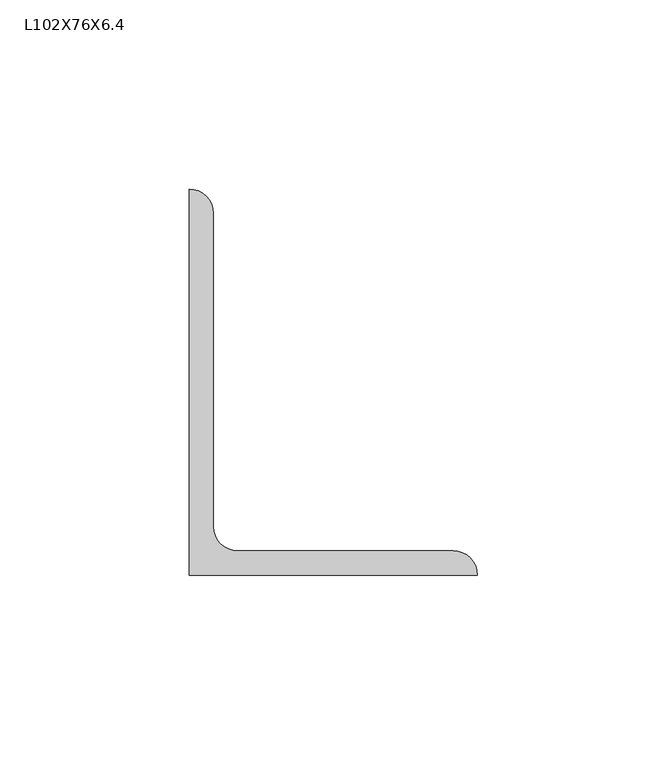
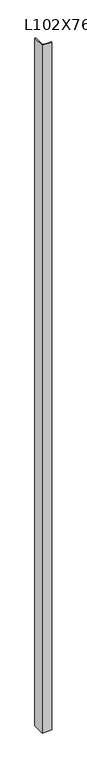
"""IFC4 building model written with IfcOpenShell, lengths in millimetres: column geometry, Уголок-Колонна : L102X76X6.4."""

from ifc_helpers import new_model, si_unit, point, frame_2d, origin, origin_with_axes, place, context, project, spatial, polyline, circle_curve, trimmed, segment, composite_curve, outline, extrude, source, transform, mapped, element, save


def l102x76x6_4_0af6abb1(model_context):
    return source(origin(), model_context, "Body", "SweptSolid", [
        extrude(outline(composite_curve([segment(polyline([(57.8, -31.0), (-18.4, -31.0), (-18.4, 71.0)]), True, "CONTINUOUS"), segment(trimmed(circle_curve(frame_2d((-18.4, 64.6)), 6.4), [point((-18.4, 71.0))], [point((-12.0, 64.6))], False, "CARTESIAN"), True, "CONTINUOUS"), segment(polyline([(-12.0, 64.6), (-12.0, -18.2)]), True, "CONTINUOUS"), segment(trimmed(circle_curve(frame_2d((-5.6, -18.2)), 6.4), [point((-12.0, -18.2))], [point((-5.6, -24.6))], True, "CARTESIAN"), True, "CONTINUOUS"), segment(polyline([(-5.6, -24.6), (51.4, -24.6)]), True, "CONTINUOUS"), segment(trimmed(circle_curve(frame_2d((51.4, -31.0)), 6.4), [point((51.4, -24.6))], [point((57.8, -31.0))], False, "CARTESIAN"), True, "CONTINUOUS")], self_intersect=False)), origin_with_axes(), (0.0, 0.0, 1.0), 5825.0),
    ])


if __name__ == "__main__":
    model = new_model("IFC4")
    model_context = context("Model", 3, world=origin())
    ifc_project = project(units=[si_unit("LENGTHUNIT", "METRE", prefix="MILLI")], contexts=[model_context])
    site = spatial("IfcSite", under=ifc_project)
    building = spatial("IfcBuilding", under=site)
    placement = place(None, origin())
    l102x76x6_4_shape = l102x76x6_4_0af6abb1(model_context)
    element("IfcColumn", 1, ObjectType="Уголок-Колонна : L102X76X6.4", at=placement, inside=building, context=model_context, shape_type="MappedRepresentation", body=[
        mapped(l102x76x6_4_shape, transform((0.0, 0.0, 0.0), x_axis=(1.0, 0.0, 0.0), y_axis=(0.0, 1.0, 0.0), z_axis=(0.0, 0.0, 1.0))),
    ])
    save(model, "model.ifc")
